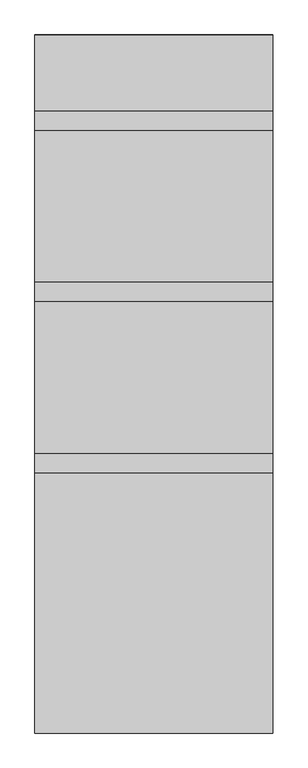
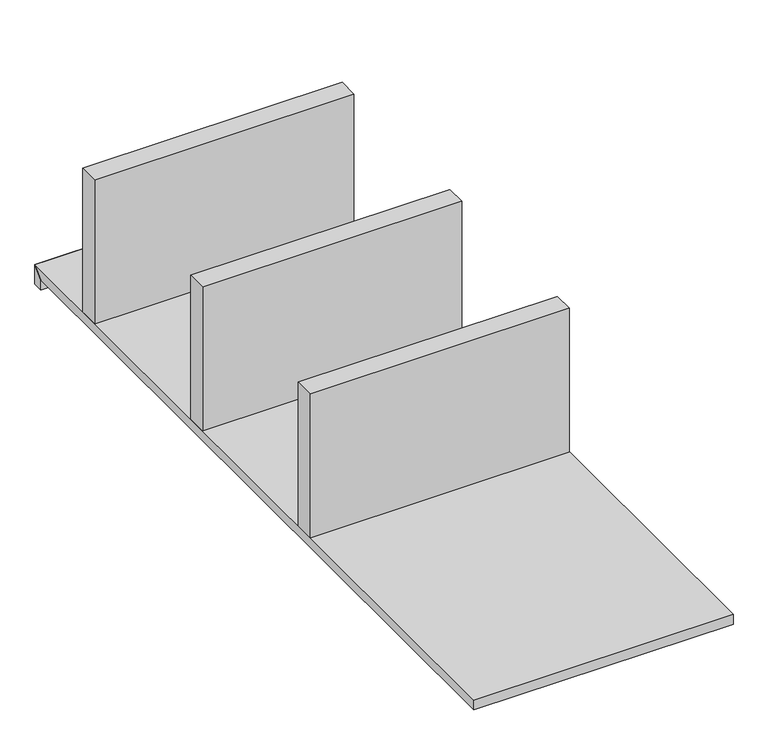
"""IFC4 building model written with IfcOpenShell, lengths in millimetres: proxy geometry, FOUNDATION^PO 2_WALL HUNG 3 SHELVES-PARTS SOLID."""

from ifc_helpers import new_model, si_unit, frame, origin, origin_with_axes, place, context, project, spatial, polyline, outline, extrude, source, transform, mapped, element, save


def generic_models_6056f1e5(model_context):
    return source(origin(), model_context, "Body", "SweptSolid", [
        extrude(outline(polyline([(476.25, 901.7), (476.25, 863.6), (0.0, 863.6), (0.0, 901.7), (476.25, 901.7)])), origin_with_axes(), (0.0, 0.0, 1.0), 279.4),
        extrude(outline(polyline([(476.25, 558.8), (476.25, 520.7), (0.0, 520.7), (0.0, 558.8), (476.25, 558.8)])), origin_with_axes(), (0.0, 0.0, 1.0), 279.4),
        extrude(outline(polyline([(476.25, 1206.5), (0.0, 1206.5), (0.0, 1244.6), (476.25, 1244.6), (476.25, 1206.5)])), origin_with_axes(), (0.0, 0.0, 1.0), 279.4),
        extrude(outline(polyline([(1397.0, -38.1), (1377.95, -38.1), (1377.95, -19.05), (1397.0, 0.0), (1397.0, -38.1)])), frame((0.0, 0.0, 0.0), z_axis=(1.0, 0.0, 0.0), x_axis=(0.0, 1.0, 0.0)), (0.0, 0.0, 1.0), 476.25),
        extrude(outline(polyline([(1397.0, 0.0), (1377.95, -19.05), (0.0, -19.05), (0.0, 0.0), (1397.0, 0.0)])), frame((0.0, 0.0, 0.0), z_axis=(1.0, 0.0, 0.0), x_axis=(0.0, 1.0, 0.0)), (0.0, 0.0, 1.0), 476.25),
    ])


if __name__ == "__main__":
    model = new_model("IFC4")
    model_context = context("Model", 3, world=origin())
    ifc_project = project(units=[si_unit("LENGTHUNIT", "METRE", prefix="MILLI")], contexts=[model_context])
    site = spatial("IfcSite", under=ifc_project)
    building = spatial("IfcBuilding", under=site)
    placement = place(None, origin())
    generic_models_shape = generic_models_6056f1e5(model_context)
    element("IfcBuildingElementProxy", 1, Name="FOUNDATION^PO 2_WALL HUNG 3 SHELVES-PARTS SOLID", ObjectType="FOUNDATION^PO 2_WALL HUNG 3 SHELVES-PARTS SOLID", at=placement, inside=building, context=model_context, shape_type="MappedRepresentation", body=[
        mapped(generic_models_shape, transform((0.0, 0.0, 0.0), x_axis=(1.0, 0.0, 0.0), y_axis=(0.0, 1.0, 0.0), z_axis=(0.0, 0.0, 1.0))),
    ])
    save(model, "model.ifc")
